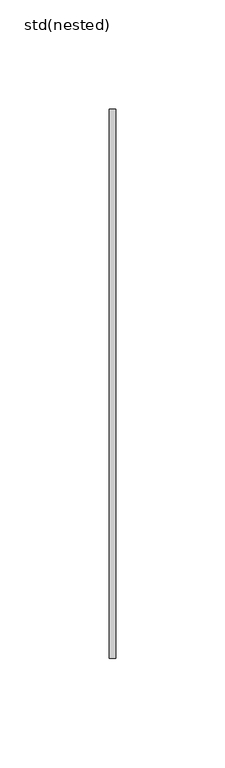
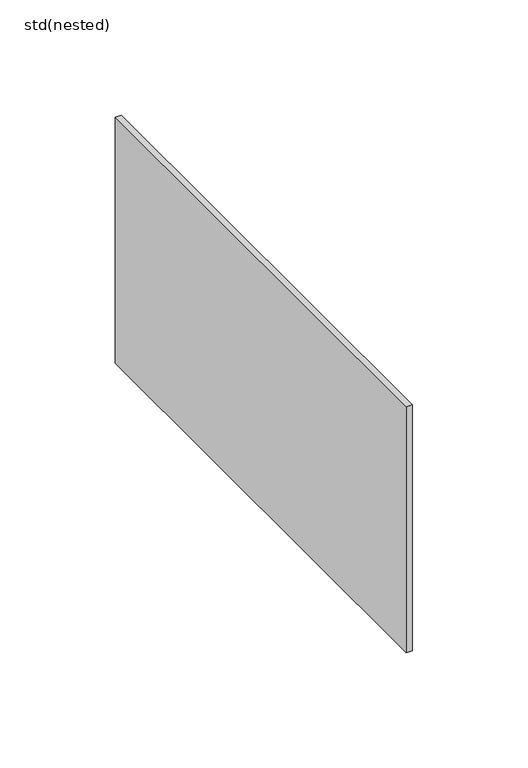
"""IFC4 building model written with IfcOpenShell, lengths in millimetres: sanitary terminal geometry, ZZZ_do not use_PF_ST_slabdrain_H200K_endcaps_USA_ACO : std(nested)."""

from ifc_helpers import new_model, si_unit, frame, origin, place, context, project, spatial, polyline, outline, extrude, source, transform, mapped, element, save


def std_nested_2a0174b5(model_context):
    return source(origin(), model_context, "Body", "SweptSolid", [
        extrude(outline(polyline([(-3.0, 126.0), (0.0, 126.0), (0.0, -126.0), (-3.0, -126.0), (-3.0, 126.0)])), frame((0.0, 0.0, -130.0), z_axis=(0.0, 0.0, 1.0), x_axis=(1.0, 0.0, 0.0)), (0.0, 0.0, 1.0), 130.0),
    ])


if __name__ == "__main__":
    model = new_model("IFC4")
    model_context = context("Model", 3, world=origin())
    ifc_project = project(units=[si_unit("LENGTHUNIT", "METRE", prefix="MILLI")], contexts=[model_context])
    site = spatial("IfcSite", under=ifc_project)
    building = spatial("IfcBuilding", under=site)
    placement = place(None, origin())
    std_nested_shape = std_nested_2a0174b5(model_context)
    element("IfcSanitaryTerminal", 1, ObjectType="ZZZ_do not use_PF_ST_slabdrain_H200K_endcaps_USA_ACO : std(nested)", at=placement, inside=building, context=model_context, shape_type="MappedRepresentation", body=[
        mapped(std_nested_shape, transform((0.0, 0.0, 0.0), x_axis=(1.0, 0.0, 0.0), y_axis=(0.0, 1.0, 0.0), z_axis=(0.0, 0.0, 1.0))),
    ])
    save(model, "model.ifc")
